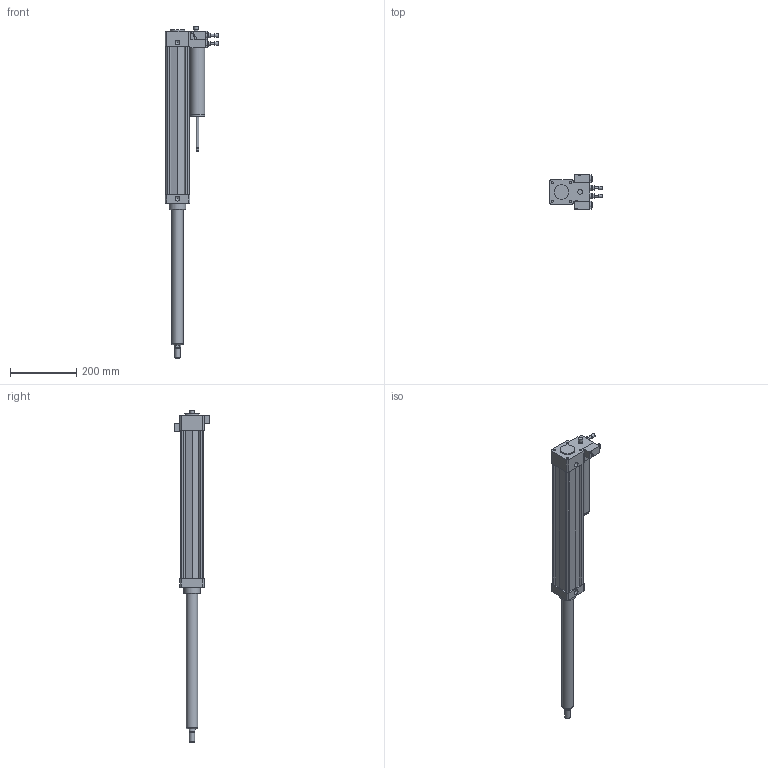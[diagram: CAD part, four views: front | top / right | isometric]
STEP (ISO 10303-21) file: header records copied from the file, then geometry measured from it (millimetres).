
FILE_DESCRIPTION((''),'2;1');
FILE_NAME('I:\Area Tecnica\Disegni\VARIE-3D\Componenti\COP\14##.####.#.#.#\14630400D.0.C.stp','2008-04-24T08:48:38',('airolcr1'),(''),'Autodesk Inventor 2008','Autodesk Inventor 2008','');
FILE_SCHEMA(('AUTOMOTIVE_DESIGN { 1 0 10303 214 1 1 1 1 }'));
Length unit declared in the file: millimetre
Products named in the file (7): 14630400D.0.C; STELO Ø63 C 400; VAL SK NC IN; VAL SK NC OUT; REGOLATORE DR IN; REGOLATORE DR OUT
Assembly tree (6 placements, depth 2):
  14630400D.0.C
    14630400D.0.C
    STELO Ø63 C 400
    VAL SK NC IN
    VAL SK NC OUT
    REGOLATORE DR IN
    REGOLATORE DR OUT
Bounding box: 163 x 105.61 x 1006 mm (x, y, z)
Volume: 3345507 mm3; surface area: 288831.1 mm2
Topology: 6 solids, 6 shells, 248 faces, 540 edges, 351 vertices
Faces by surface type: plane 135, cylinder 73, bspline 30, cone 9, torus 1
Full cylindrical faces by diameter (mm): 2 x2, 4 x8, 6 x2, 7 x8, 8 x2, 11 x2, 12 x2, 13 x1, 14 x1, 14.5 x1, 16 x1, 17 x2, 20 x1, 34.7 x1, 35 x2, 41 x1, 45 x3, 50 x1
Entity records: 6892 total; most frequent: CARTESIAN_POINT 1403, DIRECTION 1112, ORIENTED_EDGE 920, EDGE_CURVE 460, AXIS2_PLACEMENT_3D 421, EDGE_LOOP 364, VERTEX_POINT 340, VECTOR 270
